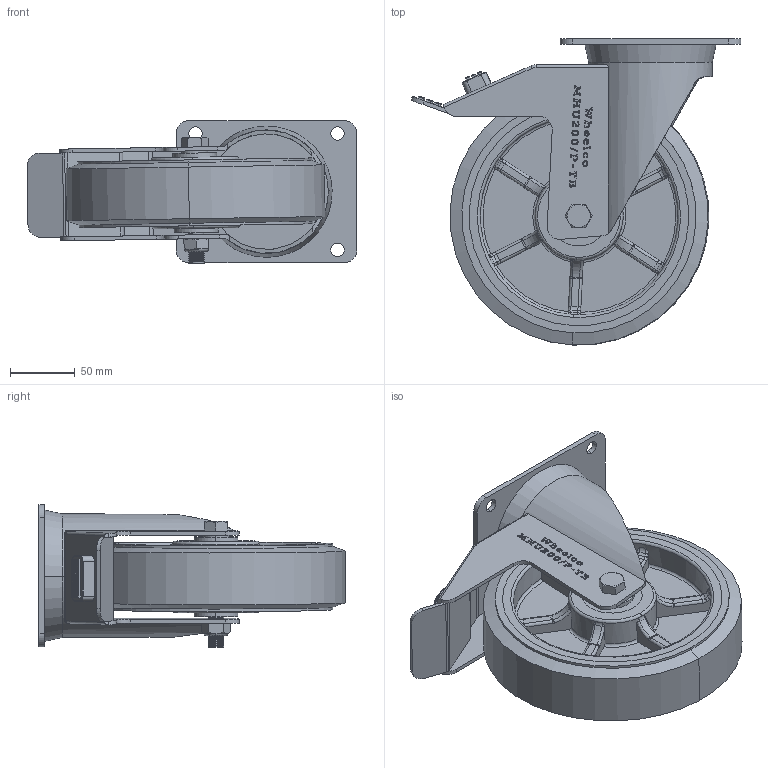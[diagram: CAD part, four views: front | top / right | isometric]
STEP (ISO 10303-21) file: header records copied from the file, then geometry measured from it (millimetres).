
FILE_DESCRIPTION (( 'STEP AP214' ), '1' );
FILE_NAME ('MHU200-P-TB.step', '2023-12-04T19:35:10', ( '' ), ( '' ), 'SwSTEP 2.0', 'SolidWorks 2022', '' );
FILE_SCHEMA (( 'AUTOMOTIVE_DESIGN' ));
Length unit declared in the file: millimetre
Products named in the file (8): 20mm Plastic Washer BLACK; M12NYLOC; MHU200; M12 X 90; MHU200-P-TB; SP20-12-62; 140X110 PLATE
Assembly tree (8 placements, depth 2):
  MHU200-P-TB
    M12 X 90
    MHU200
    20mm Plastic Washer BLACK  x2
    MHU200-P-TB
    M12NYLOC
    SP20-12-62
    140X110 PLATE
Bounding box: 255.34 x 236.87 x 110.47 mm (x, y, z)
Volume: 1242863.6 mm3; surface area: 281822.9 mm2
Topology: 8 solids, 8 shells, 965 faces, 2502 edges, 1595 vertices
Faces by surface type: plane 380, bspline 256, cylinder 183, torus 124, cone 22
Entity records: 45836 total; most frequent: CARTESIAN_POINT 22999, ORIENTED_EDGE 4980, DIRECTION 3687, EDGE_CURVE 2490, VERTEX_POINT 1587, AXIS2_PLACEMENT_3D 1259, LINE 1169, VECTOR 1169
